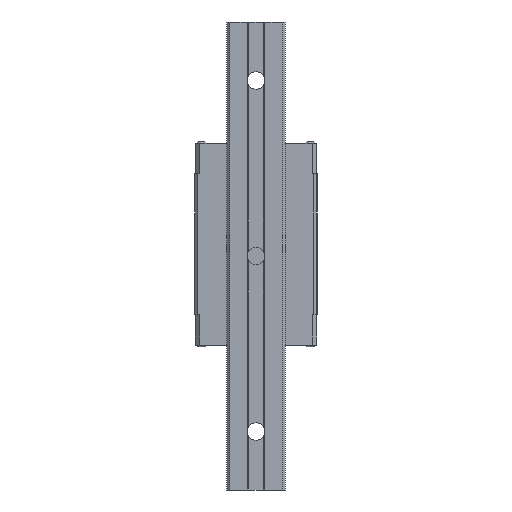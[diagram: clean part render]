
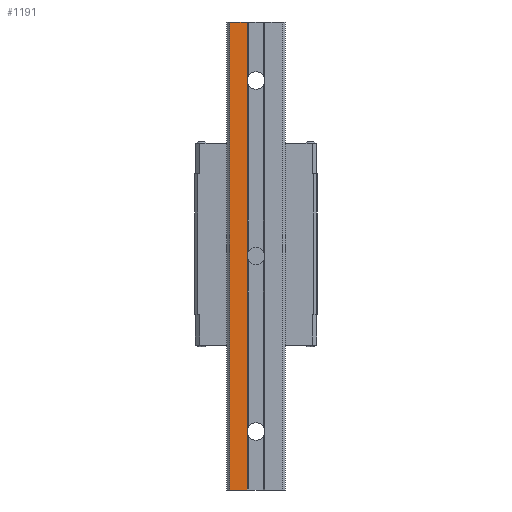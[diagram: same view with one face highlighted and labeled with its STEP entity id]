
A CAD part, front view. The second image highlights one B-rep face of the part: STEP entity #1191.
In plain terms, the highlighted planar face has unit normal (0, -1, 0).
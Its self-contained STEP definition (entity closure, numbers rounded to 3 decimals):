
#600 = ORIENTED_EDGE ( 'NONE', *, *, #11322, .T. ) ;
#620 = EDGE_CURVE ( 'NONE', #2532, #7580, #5486, .T. ) ;
#694 = DIRECTION ( 'NONE',  ( 0., 0., 1. ) ) ;
#839 = CARTESIAN_POINT ( 'NONE',  ( 0., -15.5, 100. ) ) ;
#1191 = ADVANCED_FACE ( 'NONE', ( #2877 ), #17552, .T. ) ;
#1785 = DIRECTION ( 'NONE',  ( 1., 0., 0. ) ) ;
#2026 = DIRECTION ( 'NONE',  ( 0., 0., 1. ) ) ;
#2255 = ORIENTED_EDGE ( 'NONE', *, *, #17160, .T. ) ;
#2467 = CARTESIAN_POINT ( 'NONE',  ( -3., -15.5, 100. ) ) ;
#2532 = VERTEX_POINT ( 'NONE', #6911 ) ;
#2548 = CARTESIAN_POINT ( 'NONE',  ( -3., -15.5, 80. ) ) ;
#2680 = CARTESIAN_POINT ( 'NONE',  ( -3., -15.5, -40. ) ) ;
#2745 = DIRECTION ( 'NONE',  ( 0., -1., 0. ) ) ;
#2811 = ORIENTED_EDGE ( 'NONE', *, *, #3511, .T. ) ;
#2877 = FACE_OUTER_BOUND ( 'NONE', #9377, .T. ) ;
#3131 = EDGE_CURVE ( 'NONE', #2532, #4636, #16567, .T. ) ;
#3180 = LINE ( 'NONE', #17557, #7239 ) ;
#3481 = DIRECTION ( 'NONE',  ( 1., 0., 0. ) ) ;
#3511 = EDGE_CURVE ( 'NONE', #9471, #8705, #16248, .T. ) ;
#3664 = CARTESIAN_POINT ( 'NONE',  ( -9., -15.5, -30. ) ) ;
#4437 = CARTESIAN_POINT ( 'NONE',  ( -9., -15.5, -30. ) ) ;
#4636 = VERTEX_POINT ( 'NONE', #15713 ) ;
#4755 = VECTOR ( 'NONE', #3481, 1000. ) ;
#5238 = LINE ( 'NONE', #8919, #8248 ) ;
#5486 = LINE ( 'NONE', #839, #4755 ) ;
#6258 = CARTESIAN_POINT ( 'NONE',  ( -3., -15.5, -30. ) ) ;
#6886 = ORIENTED_EDGE ( 'NONE', *, *, #3131, .T. ) ;
#6911 = CARTESIAN_POINT ( 'NONE',  ( -9., -15.5, 100. ) ) ;
#7227 = VECTOR ( 'NONE', #694, 1000. ) ;
#7228 = CARTESIAN_POINT ( 'NONE',  ( -3., -15.5, -60. ) ) ;
#7239 = VECTOR ( 'NONE', #10420, 1000. ) ;
#7580 = VERTEX_POINT ( 'NONE', #2467 ) ;
#8248 = VECTOR ( 'NONE', #16082, 1000. ) ;
#8705 = VERTEX_POINT ( 'NONE', #2548 ) ;
#8919 = CARTESIAN_POINT ( 'NONE',  ( -3., -15.5, -30. ) ) ;
#9269 = EDGE_CURVE ( 'NONE', #13661, #17055, #3180, .T. ) ;
#9377 = EDGE_LOOP ( 'NONE', ( #6886, #600, #14674, #2255, #2811, #17718, #10117 ) ) ;
#9401 = DIRECTION ( 'NONE',  ( 0., 0., -1. ) ) ;
#9471 = VERTEX_POINT ( 'NONE', #16722 ) ;
#10117 = ORIENTED_EDGE ( 'NONE', *, *, #620, .F. ) ;
#10420 = DIRECTION ( 'NONE',  ( 0., 0., 1. ) ) ;
#10529 = VECTOR ( 'NONE', #9401, 1000. ) ;
#11322 = EDGE_CURVE ( 'NONE', #4636, #13661, #16116, .T. ) ;
#12380 = EDGE_CURVE ( 'NONE', #8705, #7580, #15977, .T. ) ;
#13534 = VECTOR ( 'NONE', #1785, 1000. ) ;
#13661 = VERTEX_POINT ( 'NONE', #7228 ) ;
#14674 = ORIENTED_EDGE ( 'NONE', *, *, #9269, .T. ) ;
#15590 = AXIS2_PLACEMENT_3D ( 'NONE', #4437, #2745, #16048 ) ;
#15691 = VECTOR ( 'NONE', #2026, 1000. ) ;
#15713 = CARTESIAN_POINT ( 'NONE',  ( -9., -15.5, -60. ) ) ;
#15977 = LINE ( 'NONE', #16428, #7227 ) ;
#16048 = DIRECTION ( 'NONE',  ( 0., 0., -1. ) ) ;
#16082 = DIRECTION ( 'NONE',  ( 0., 0., 1. ) ) ;
#16116 = LINE ( 'NONE', #17592, #13534 ) ;
#16248 = LINE ( 'NONE', #6258, #15691 ) ;
#16428 = CARTESIAN_POINT ( 'NONE',  ( -3., -15.5, -30. ) ) ;
#16567 = LINE ( 'NONE', #3664, #10529 ) ;
#16722 = CARTESIAN_POINT ( 'NONE',  ( -3., -15.5, 20. ) ) ;
#17055 = VERTEX_POINT ( 'NONE', #2680 ) ;
#17160 = EDGE_CURVE ( 'NONE', #17055, #9471, #5238, .T. ) ;
#17552 = PLANE ( 'NONE',  #15590 ) ;
#17557 = CARTESIAN_POINT ( 'NONE',  ( -3., -15.5, -30. ) ) ;
#17592 = CARTESIAN_POINT ( 'NONE',  ( 0., -15.5, -60. ) ) ;
#17718 = ORIENTED_EDGE ( 'NONE', *, *, #12380, .T. ) ;
